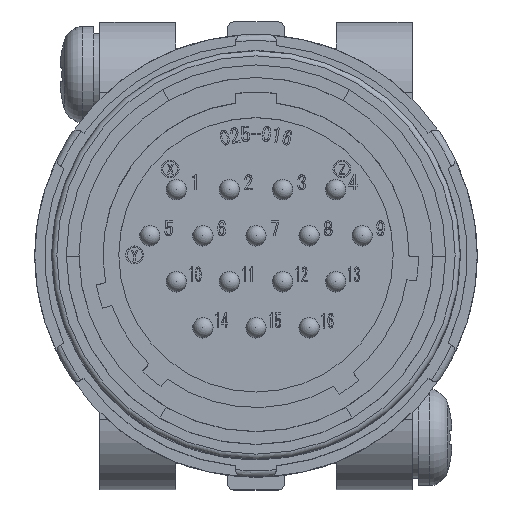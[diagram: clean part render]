
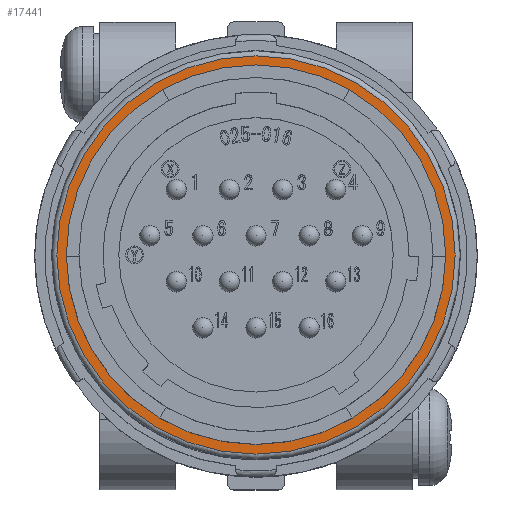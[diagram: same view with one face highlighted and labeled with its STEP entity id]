
A CAD part, top view. The second image highlights one B-rep face of the part: STEP entity #17441.
In plain terms, the highlighted planar face has unit normal (0, 0, 1).
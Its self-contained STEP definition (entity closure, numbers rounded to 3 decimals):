
#1810 = AXIS2_PLACEMENT_3D ( 'NONE', #40676, #50618, #2297 ) ;
#2297 = DIRECTION ( 'NONE',  ( -1., 0., 0. ) ) ;
#3869 = CARTESIAN_POINT ( 'NONE',  ( -13.98, 0., -19.2 ) ) ;
#4153 = DIRECTION ( 'NONE',  ( 0., 0., -1. ) ) ;
#5215 = ORIENTED_EDGE ( 'NONE', *, *, #21627, .T. ) ;
#5259 = DIRECTION ( 'NONE',  ( 1., 0., 0. ) ) ;
#7563 = CARTESIAN_POINT ( 'NONE',  ( 0., 0., -19.2 ) ) ;
#7646 = AXIS2_PLACEMENT_3D ( 'NONE', #47173, #4153, #9043 ) ;
#9043 = DIRECTION ( 'NONE',  ( -1., 0., 0. ) ) ;
#10234 = EDGE_LOOP ( 'NONE', ( #38000 ) ) ;
#12465 = FACE_BOUND ( 'NONE', #10234, .T. ) ;
#17441 = ADVANCED_FACE ( 'NONE', ( #12465, #36765 ), #35846, .F. ) ;
#17695 = EDGE_LOOP ( 'NONE', ( #5215 ) ) ;
#21627 = EDGE_CURVE ( 'NONE', #36720, #36720, #61065, .T. ) ;
#33784 = CARTESIAN_POINT ( 'NONE',  ( 15.75, 0., -19.2 ) ) ;
#35846 = PLANE ( 'NONE',  #1810 ) ;
#36720 = VERTEX_POINT ( 'NONE', #33784 ) ;
#36765 = FACE_OUTER_BOUND ( 'NONE', #17695, .T. ) ;
#37463 = EDGE_CURVE ( 'NONE', #42721, #42721, #46218, .T. ) ;
#38000 = ORIENTED_EDGE ( 'NONE', *, *, #37463, .T. ) ;
#38559 = DIRECTION ( 'NONE',  ( 0., 0., 1. ) ) ;
#38961 = AXIS2_PLACEMENT_3D ( 'NONE', #7563, #38559, #5259 ) ;
#40676 = CARTESIAN_POINT ( 'NONE',  ( 0., 14.15, -19.2 ) ) ;
#42721 = VERTEX_POINT ( 'NONE', #3869 ) ;
#46218 = CIRCLE ( 'NONE', #7646, 13.98 ) ;
#47173 = CARTESIAN_POINT ( 'NONE',  ( 0., 0., -19.2 ) ) ;
#50618 = DIRECTION ( 'NONE',  ( 0., 0., -1. ) ) ;
#61065 = CIRCLE ( 'NONE', #38961, 15.75 ) ;
